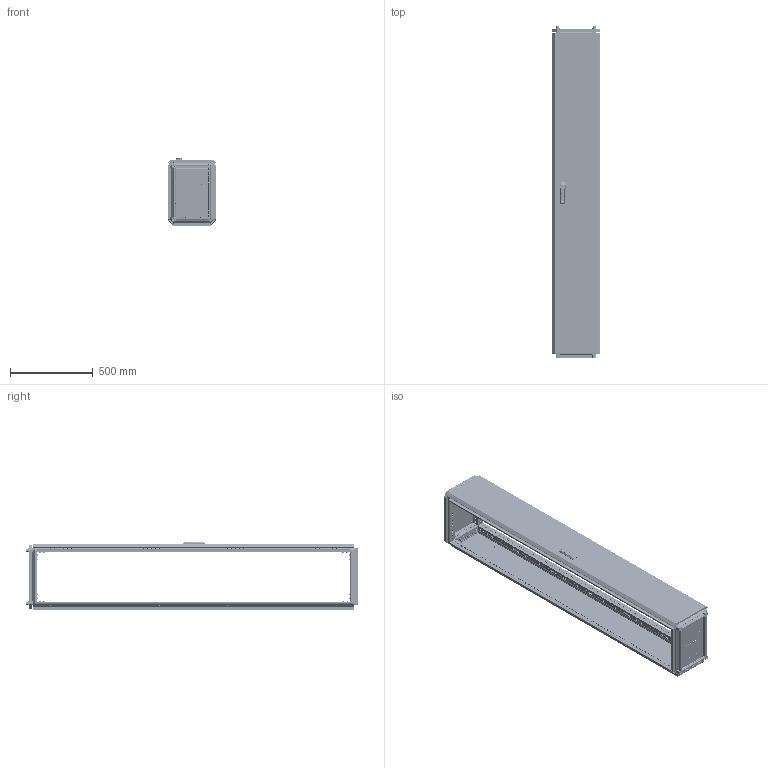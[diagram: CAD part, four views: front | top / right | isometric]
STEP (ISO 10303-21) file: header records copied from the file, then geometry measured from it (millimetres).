
FILE_DESCRIPTION (( 'STEP AP203' ), '1' );
FILE_NAME ('MA1.000.030420.10.00 AleSta2034 Øêàô AleSta 300õ400õ2000.STEP', '2024-08-23T08:17:36', ( '' ), ( '' ), 'SwSTEP 2.0', 'SolidWorks 2021', '' );
FILE_SCHEMA (( 'CONFIG_CONTROL_DESIGN' ));
Length unit declared in the file: millimetre
Products named in the file (50): Øïèëüêà Ì6õ12_˜¯¨«ìª  Œ6å16; Øïèëüêà Ì6õ12_˜¯¨«ìª  Œ6å12; Âèíò_ðåçüáîâûäàâëèâàþùèé_Ì5õ12_DIN 7500E_Œ5å12; 諘蜱齁罻 022 瀁錒瀔隮; MA1.200.060620.10.00 AleSta-PR206  Ïàíåëü çàäíÿÿ, äëÿ øêàôîâ ALESTA, 2000 x 600_2000å300; ﾘ琺矜 65ﾃ 019 ﾃﾎﾑﾒ 6402-70_12; Ïåòëÿ íà äâåðü ï-îáðàçíàÿ; 7380-2 ISO Âèíòû ñ ïîëóêðóãëîé ãîëîâêîé ñ ôëàíöåì ñ âíóòðåííèì øåñòèãðàííèêîì Ì4õ10; òÿãà_lg001-2.STEP_‚=2000; Îñü ïåòëè 4õ52_‚¨­â A.M4x0,5x40 ƒŽ‘’ 11644-75; Âèíò_ðåçüáîâûäàâëèâàþùèé_Ì5õ12_DIN 7500E_00; MA1.102.060620.00.00 AleSta-VG2000 Ñòîéêè âåðòèêàëüíûå, Â=2000ìì  (4øò)_300å400; Áîëò øåñòèãðàííûé Ì5õ12 DIN 933, êëàññ ïðî÷íîñòè 8.8, îöèíêîâàííàÿ ñòàëü; MA1.101.060620.20.00 Íèæíÿÿ ïàíåëü 600õ600_300å400; MA1.200.060620.31.01 Ïîëîòíî äâåðè ñïëîøíîé 2000õ600_2000å300; Ãàéêà ñàìîêîíòðÿùàÿñÿ ñ íåéëîíîâîé âñòàâêîé Ì6 DIN 985, êëàññ ïðî÷íîñòè 8, îöèíêîâàííàÿ ñòàëü_Œ6; Øïèëüêà Ì6õ12_˜¯¨«ìª  Œ6å20; MA1.200.060620.31.04 ðèãåëü çàìêà äâåðè; MA1.102.060620.00.01 Ïðîôèëü âåðòèêàëüíûé ñâàðíîé_04 L=1898 (‚=2000); Âèíò ðåçüáîâûäàâëèâàþùèé Ì6õ12 DIN 7500E_Œ6å10; Óïëîòíèòåëü ïàíåëè íèæíåé_300å400; Âèíò ñàìîíàðåçàþùèé ñ ïîòàéíîé ãîëîâêîé Ì5x14 DIN 7500 M TORX, êëàññ ïðî÷íîñòè 8.8, îöèíêîâàííàÿ ñòàëü_Œ5å14; äåðæàòåëü_êðóãëîé_òÿãèRG002-RG1010-2-i-RG1010-3-.stp; êðåïëåíèå_êðóãëîé_òÿãè_RG1020-1.stp; Ïðîáêà ïëàñòèêîâàÿ óíèâåðñàëüíàÿ ïîä îòâåðñòèå 4,5 ìì, ñåðèÿ ST, öâåò áåñöâåòíûé – ST4,5; MA1.200.060620.31.03 Ðåéêà íà äâåðü ãîðèçîíòàëüíàÿ Ø = 600_˜=300; MA1.200.060620.11.00 Ïàíåëü çàäíÿÿ, äëÿ øêàôîâ AleSta, 2000x600_2000å300; MA1.200.060620.11.01 Ïîëîòíî çàäíåé ïàíåëè 2000õ600_2000å300; MA1.101.060620.00.02 Ïðîôèëü ïîïåðå÷íûé ñâàðíîé_00 L=298 (˜=400); ﾇﾀﾊﾋﾅﾏﾊﾀ ﾃﾀﾅﾗﾍﾀﾟ ﾘﾅﾑﾒﾈﾃﾐﾀﾍﾍﾀﾟ ﾑ ﾓﾌﾅﾍﾜﾘﾅﾍﾍﾛﾌ ﾁﾎﾐﾒﾎﾌ M4 X 11 (0.5-2.5 ﾌﾌ) HEX U-S ﾖﾈﾍﾊ; MA1.100.060620.00.01 Ñîåäèíèòåëü óãëîâîé_00; Âèíò ñàìîíàðåçàþùèé ñ ïîòàéíîé ãîëîâêîé Ì5x14 DIN 7500 M TORX, êëàññ ïðî÷íîñòè 8.8, îöèíêîâàííàÿ ñòàëü_Œ5å12; MA1.101.060620.00.02 Ïðîôèëü ïîïåðå÷íûé ñâàðíîé_03 L=198 (˜=300); Ãàéêà ñàìîêîíòðÿùàÿñÿ ñ íåéëîíîâîé âñòàâêîé Ì6 DIN 985, êëàññ ïðî÷íîñòè 8, îöèíêîâàííàÿ ñòàëü_Œ5; Íàâåñêà íà êîðïóñ ïîä êëåïêó; Âèíò ñ âí. øåñòèãðàííèêîì M12 DIN912_•30; MA1.101.060620.00.00 AleSta-RB66 Êîìïëåêò êðûøà è îñíîâàíèå_300x400; MA1.000.030420.10.00 AleSta2034 Øêàô AleSta 300õ400õ2000; MA1.101.060620.10.00 Êðûøà 600x600_300å400; MA1.200.060620.31.00 Äâåðü ñïëîøíàÿ äëÿ øêàôîâ ALESTA ÂõØ 2000õ600_2000å300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
Assembly tree (329 placements, depth 4):
  Ïðîáêà ïëàñòèêîâàÿ óíèâåðñàëüíàÿ ïîä îòâåðñòèå 4,5 ìì, ñåðèÿ ST, öâåò áåñöâåòíûé – ST4,5
  MA1.000.030420.10.00 AleSta2034 Øêàô AleSta 300õ400õ2000
    MA1.101.060620.00.00 AleSta-RB66 Êîìïëåêò êðûøà è îñíîâàíèå_300x400
      MA1.101.060620.00.02 Ïðîôèëü ïîïåðå÷íûé ñâàðíîé_00 L=298 (˜=400)  x4
      MA1.101.060620.00.02 Ïðîôèëü ïîïåðå÷íûé ñâàðíîé_03 L=198 (˜=300)  x4
      MA1.101.060620.10.00 Êðûøà 600x600_300å400
        MA1.101.060620.10.01 Ïîëîòíî êðûøè 600õ600_300x400
        Øïèëüêà Ì6õ12_˜¯¨«ìª  Œ6å12  x4
        Óïëîòíèòåëü ïàíåëè íèæíåé_300å400
      MA1.101.060620.20.00 Íèæíÿÿ ïàíåëü 600õ600_300å400
        MA1.101.060620.20.01 Ïîëîòíî íèæíåé ïàíåëè 600õ600_300å400
        ﾇﾀﾊﾋﾅﾏﾊﾀ ﾃﾀﾅﾗﾍﾀﾟ ﾘﾅﾑﾒﾈﾃﾐﾀﾍﾍﾀﾟ ﾑ ﾓﾌﾅﾍﾜﾘﾅﾍﾍﾛﾌ ﾁﾎﾐﾒﾎﾌ M4 X 11 (0.5-2.5 ﾌﾌ) HEX U-S ﾖﾈﾍﾊ  x4
        MA1.101.060620.20.02 Çàêðûòèå íèæíåé ïàíåëè 600õ600_300å400  x2
        7380-2 ISO Âèíòû ñ ïîëóêðóãëîé ãîëîâêîé ñ ôëàíöåì ñ âíóòðåííèì øåñòèãðàííèêîì Ì4õ10  x4
      Âèíò_ðåçüáîâûäàâëèâàþùèé_Ì5õ12_DIN 7500E_Œ5å12  x8
      MA1.100.060620.00.01 Ñîåäèíèòåëü óãëîâîé_00  x8
      Âèíò ñ âí. øåñòèãðàííèêîì M12 DIN912_•30  x4
      Âèíò ðåçüáîâûäàâëèâàþùèé Ì6õ12 DIN 7500E_Œ6å10  x96
      ﾘ琺矜 01.019 ﾃﾎﾑﾒ11371-78_12  x4
      ﾘ琺矜 65ﾃ 019 ﾃﾎﾑﾒ 6402-70_12  x4
      Øàéáà ñòîïîðíàÿ ñ íàðóæíûìè çóáöàìè SCHNORR, òèï VS öèíêîâûå õëîïüÿ Ì6 O6,4 ART 88121_Œ6  x80
    MA1.102.060620.00.00 AleSta-VG2000 Ñòîéêè âåðòèêàëüíûå, Â=2000ìì  (4øò)_300å400
      MA1.102.060620.00.01 Ïðîôèëü âåðòèêàëüíûé ñâàðíîé_04 L=1898 (‚=2000)  x4
    MA1.200.060620.10.00 AleSta-PR206  Ïàíåëü çàäíÿÿ, äëÿ øêàôîâ ALESTA, 2000 x 600_2000å300
      MA1.200.060620.11.00 Ïàíåëü çàäíÿÿ, äëÿ øêàôîâ AleSta, 2000x600_2000å300
        MA1.200.060620.11.01 Ïîëîòíî çàäíåé ïàíåëè 2000õ600_2000å300
        Óïëîòíèòåëü ïàíåëè íèæíåé_   ‚=2000
        Øïèëüêà Ì6õ12_˜¯¨«ìª  Œ6å12  x4
      Âèíò ñàìîíàðåçàþùèé ñ ïîòàéíîé ãîëîâêîé Ì5x14 DIN 7500 M TORX, êëàññ ïðî÷íîñòè 8.8, îöèíêîâàííàÿ ñòàëü_Œ5å14  x8
    MA1.200.060620.30.00 AleSta-D20M600 Äâåðü ñïëîøíàÿ äëÿ øêàôîâ ALESTA ÂõØ 2000õ600_2000å300
      MA1.200.060620.31.00 Äâåðü ñïëîøíàÿ äëÿ øêàôîâ ALESTA ÂõØ 2000õ600_2000å300
        MA1.200.060620.31.01 Ïîëîòíî äâåðè ñïëîøíîé 2000õ600_2000å300
        Óïëîòíèòåëü ïàíåëè íèæíåé_   ‚=2000
        Øïèëüêà Ì6õ12_˜¯¨«ìª  Œ6å20  x12
        Øïèëüêà Ì6õ12_˜¯¨«ìª  Œ6å16  x4
        Ïåòëÿ íà äâåðü ï-îáðàçíàÿ  x4
      MA1.200.060620.31.03 Ðåéêà íà äâåðü ãîðèçîíòàëüíàÿ Ø = 600_˜=300  x2
      諘蜱齁罻 022 瀁錒瀔隮  x4
      MA1.200.060620.31.02 Ðåéêà íà äâåðü âåðòèêàëüíàÿ Â = 2000_‚ =2000  x2
      äåðæàòåëü_êðóãëîé_òÿãèRG002-RG1010-2-i-RG1010-3-.stp  x2
      òÿãà_lg001-2.STEP_‚=2000  x2
      êðåïëåíèå_êðóãëîé_òÿãè_RG1020-1.stp  x2
      MS463-2-3(1)
      Ãàéêà ñàìîêîíòðÿùàÿñÿ ñ íåéëîíîâîé âñòàâêîé Ì6 DIN 985, êëàññ ïðî÷íîñòè 8, îöèíêîâàííàÿ ñòàëü_Œ6  x12
      Ãàéêà ñàìîêîíòðÿùàÿñÿ ñ íåéëîíîâîé âñòàâêîé Ì6 DIN 985, êëàññ ïðî÷íîñòè 8, îöèíêîâàííàÿ ñòàëü_Œ5  x2
      Áîëò øåñòèãðàííûé Ì5õ12 DIN 933, êëàññ ïðî÷íîñòè 8.8, îöèíêîâàííàÿ ñòàëü  x2
      MA1.200.060620.31.04 ðèãåëü çàìêà äâåðè
      MA1.200.060620.31.05 Óãëîâîé óïîð äâåðíîé òÿãè  x2
      Âèíò_ðåçüáîâûäàâëèâàþùèé_Ì5õ12_DIN 7500E_00  x2
      Íàâåñêà íà êîðïóñ ïîä êëåïêó  x4
      Îñü ïåòëè 4õ52_‚¨­â A.M4x0,5x40 ƒŽ‘’ 11644-75  x4
      Âèíò ñàìîíàðåçàþùèé ñ ïîòàéíîé ãîëîâêîé Ì5x14 DIN 7500 M TORX, êëàññ ïðî÷íîñòè 8.8, îöèíêîâàííàÿ ñòàëü_Œ5å12  x8
Bounding box: 292 x 2010.9 x 416.8 mm (x, y, z)
Volume: 6468040.5 mm3; surface area: 7473604.2 mm2
Topology: 356 solids, 370 shells, 22559 faces, 57886 edges, 36176 vertices
Faces by surface type: plane 13533, cylinder 6389, bspline 873, cone 837, torus 829, sphere 98
Entity records: 240032 total; most frequent: CARTESIAN_POINT 78397, ORIENTED_EDGE 30866, DIRECTION 30360, EDGE_CURVE 15450, AXIS2_PLACEMENT_3D 10452, VERTEX_POINT 9597, VECTOR 9456, LINE 9456
